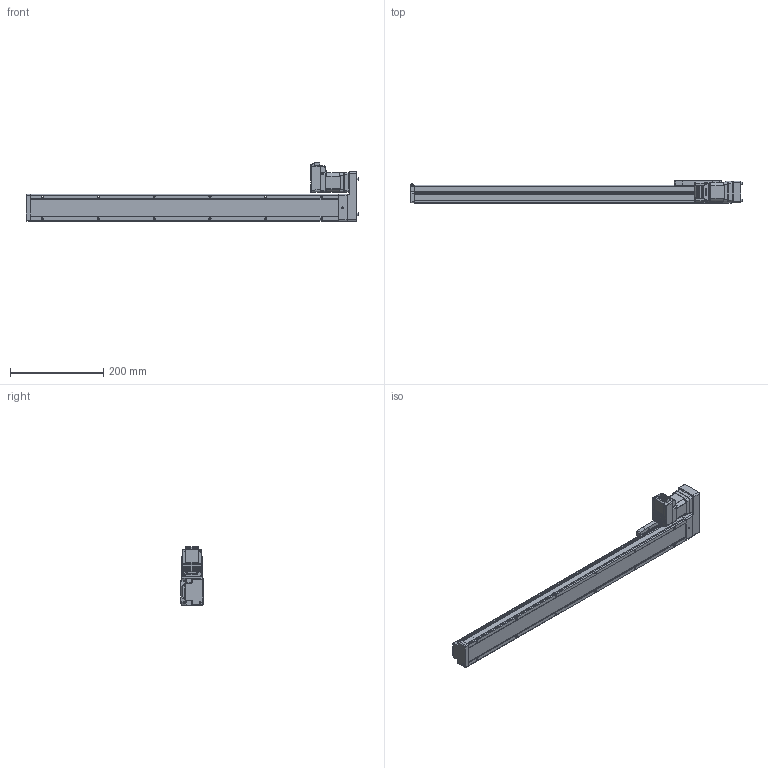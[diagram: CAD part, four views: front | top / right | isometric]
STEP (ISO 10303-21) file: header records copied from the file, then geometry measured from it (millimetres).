
FILE_DESCRIPTION (( 'STEP AP214' ), '1' );
FILE_NAME ('LEFS3(+)-25LNM1□-550-17L.STEP', '2023-05-31T05:01:19', ( '' ), ( '' ), 'SwSTEP 2.0', 'SolidWorks 2019', '' );
FILE_SCHEMA (( 'AUTOMOTIVE_DESIGN' ));
Length unit declared in the file: millimetre
Products named in the file (5): LEFS3(+)-25R(L)NM1仩_MOTOR Flange; LEFS3(+)-25LNM1□-550-17L; LEFS3(+)-25NM1_TABLE; CM3(+)-17L50A; LEFS3(+)-25R(L)NM1仩_BODY_550
Assembly tree (4 placements, depth 2):
  LEFS3(+)-25LNM1□-550-17L
    LEFS3(+)-25R(L)NM1仩_BODY_550
    LEFS3(+)-25NM1_TABLE
    LEFS3(+)-25R(L)NM1仩_MOTOR Flange
    CM3(+)-17L50A
Bounding box: 712.9 x 48 x 125.85 mm (x, y, z)
Volume: 1578217 mm3; surface area: 203244.5 mm2
Topology: 5 solids, 5 shells, 1027 faces, 2644 edges, 1668 vertices
Faces by surface type: plane 529, cylinder 326, cone 83, torus 39, bspline 29, sphere 21
Entity records: 41957 total; most frequent: CARTESIAN_POINT 7530, ORIENTED_EDGE 5226, DIRECTION 5056, EDGE_CURVE 2613, AXIS2_PLACEMENT_3D 1706, VERTEX_POINT 1668, VECTOR 1644, LINE 1644
